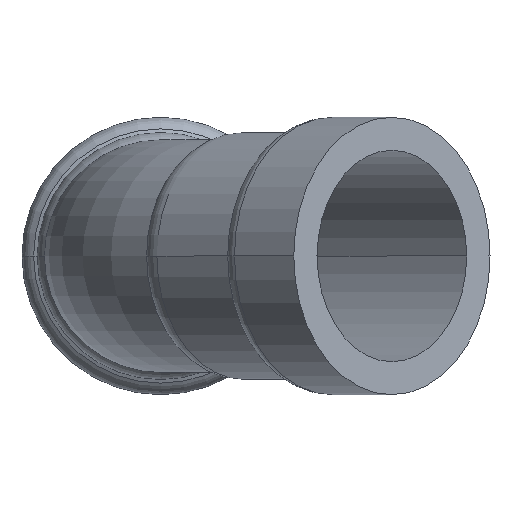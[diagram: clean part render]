
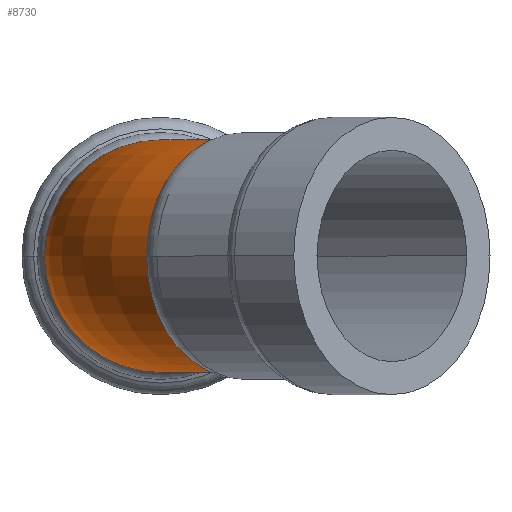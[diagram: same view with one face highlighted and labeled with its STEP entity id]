
A CAD part, left-side view. The second image highlights one B-rep face of the part: STEP entity #8730.
In plain terms, the highlighted toroidal (fillet/blend) face has major radius 38 mm and minor radius 19 mm.
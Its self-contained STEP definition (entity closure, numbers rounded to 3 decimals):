
#1930=CARTESIAN_POINT('',(89.719,41.005,
0.));
#1940=VERTEX_POINT('',#1930);
#1970=CARTESIAN_POINT('',(103.154,27.57,
0.));
#1980=DIRECTION('',(-0.707,-0.707,
0.));
#1990=DIRECTION('',(0.,0.,1.));
#2000=AXIS2_PLACEMENT_3D('',#1970,#1980,#1990);
#2010=CIRCLE('',#2000,19.);
#2020=CARTESIAN_POINT('',(103.154,27.57,19.));
#2030=VERTEX_POINT('',#2020);
#2040=EDGE_CURVE('',#2030,#1940,#2010,.T.);
#4550=CARTESIAN_POINT('',(103.154,27.57,-19.));
#4560=VERTEX_POINT('',#4550);
#4570=EDGE_CURVE('',#1940,#4560,#2010,.T.);
#4850=CARTESIAN_POINT('',(130.024,0.7,19.));
#4860=DIRECTION('',(0.,0.,1.));
#4870=DIRECTION('',(0.,1.,0.));
#4880=AXIS2_PLACEMENT_3D('',#4850,#4860,#4870);
#4890=CIRCLE('',#4880,38.);
#4900=CARTESIAN_POINT('',(130.024,38.7,19.));
#4910=VERTEX_POINT('',#4900);
#4920=EDGE_CURVE('',#4910,#2030,#4890,.T.);
#4940=CARTESIAN_POINT('',(130.024,38.7,
0.));
#4950=DIRECTION('',(-1.,0.,0.));
#4960=DIRECTION('',(0.,0.,1.));
#4970=AXIS2_PLACEMENT_3D('',#4940,#4950,#4960);
#4980=CIRCLE('',#4970,19.);
#5030=CARTESIAN_POINT('',(130.024,38.7,-19.));
#5040=VERTEX_POINT('',#5030);
#5070=CARTESIAN_POINT('',(130.024,0.7,-19.));
#5080=DIRECTION('',(0.,0.,1.));
#5090=DIRECTION('',(0.,1.,0.));
#5100=AXIS2_PLACEMENT_3D('',#5070,#5080,#5090);
#5110=CIRCLE('',#5100,38.);
#5120=EDGE_CURVE('',#5040,#4560,#5110,.T.);
#5460=CARTESIAN_POINT('',(130.024,57.7,
0.));
#5470=VERTEX_POINT('',#5460);
#5500=EDGE_CURVE('',#5470,#5040,#4980,.T.);
#8590=CARTESIAN_POINT('',(130.024,0.7,
0.));
#8600=DIRECTION('',(0.,0.,1.));
#8610=DIRECTION('',(0.,1.,0.));
#8620=AXIS2_PLACEMENT_3D('',#8590,#8600,#8610);
#8630=TOROIDAL_SURFACE('',#8620,38.,19.);
#8640=ORIENTED_EDGE('',*,*,#2040,.F.);
#8650=ORIENTED_EDGE('',*,*,#4570,.F.);
#8660=ORIENTED_EDGE('',*,*,#5120,.T.);
#8670=ORIENTED_EDGE('',*,*,#5500,.T.);
#8680=EDGE_CURVE('',#4910,#5470,#4980,.T.);
#8690=ORIENTED_EDGE('',*,*,#8680,.T.);
#8700=ORIENTED_EDGE('',*,*,#4920,.F.);
#8710=EDGE_LOOP('',(#8700,#8690,#8670,#8660,#8650,#8640));
#8720=FACE_OUTER_BOUND('',#8710,.T.);
#8730=ADVANCED_FACE('',(#8720),#8630,.T.);
